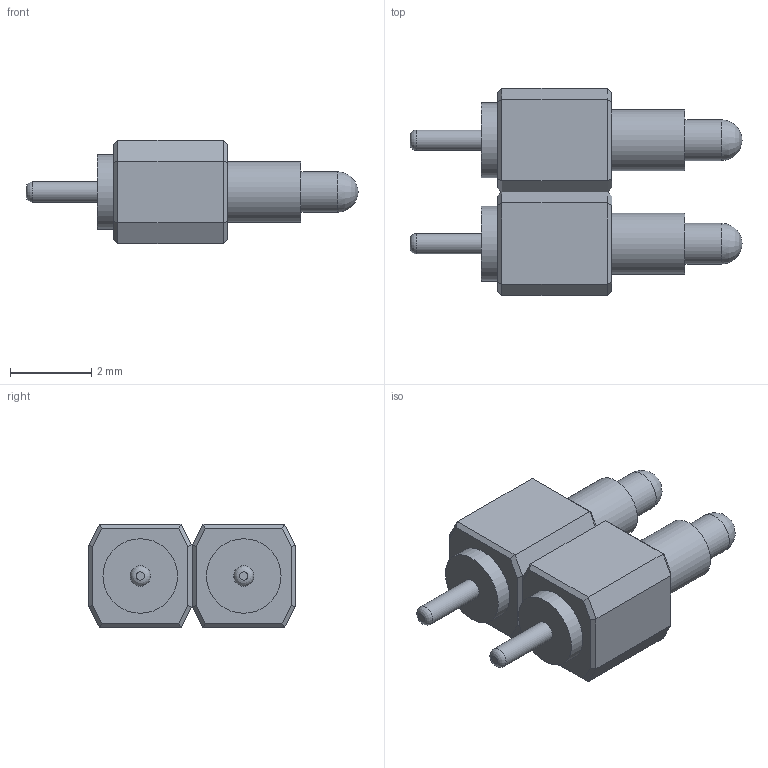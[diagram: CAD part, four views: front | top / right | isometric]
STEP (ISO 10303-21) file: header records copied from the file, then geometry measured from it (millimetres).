
FILE_DESCRIPTION(('FreeCAD Model'),'2;1');
FILE_NAME('Open CASCADE Shape Model','2024-10-25T12:05:10',('Author'),( ''),'Open CASCADE STEP processor 7.5','FreeCAD','Unknown');
FILE_SCHEMA(('AUTOMOTIVE_DESIGN { 1 0 10303 214 1 1 1 1 }'));
Length unit declared in the file: millimetre
Products named in the file (7): 816-22-002; P001; Body001; Contact001; P002; Body002; Contact002
Assembly tree (6 placements, depth 3):
  816-22-002
    P001
      Body001
      Contact001
    P002
      Body002
      Contact002
Bounding box: 8.15 x 5.08 x 2.54 mm (x, y, z)
Volume: 45.5 mm3; surface area: 165.1 mm2
Topology: 4 solids, 4 shells, 76 faces, 150 edges, 88 vertices
Faces by surface type: plane 62, cylinder 10, revolution 4
Full cylindrical faces by diameter (mm): 0.5 x2, 1 x2, 1.5 x4, 1.83 x2
Entity records: 4041 total; most frequent: CARTESIAN_POINT 661, DIRECTION 638, LINE 402, VECTOR 402, ORIENTED_EDGE 300, PCURVE 300, DEFINITIONAL_REPRESENTATION 300, EDGE_CURVE 150
